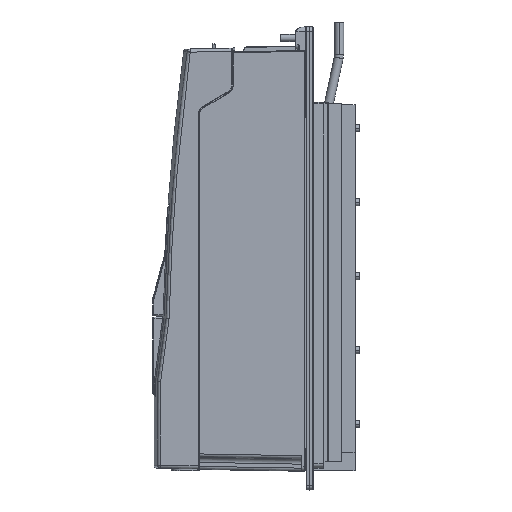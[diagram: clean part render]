
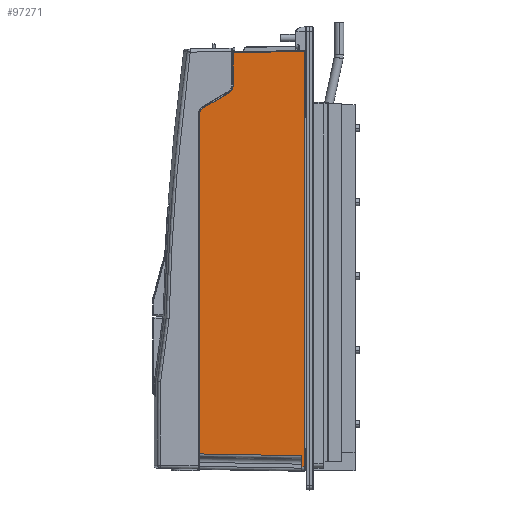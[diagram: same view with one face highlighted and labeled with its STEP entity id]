
A CAD part, left-side view. The second image highlights one B-rep face of the part: STEP entity #97271.
In plain terms, the highlighted planar face has unit normal (-1, 0.018, 0) as drawn and (1, 0.018, 0) by its records, which use the part's own axes.
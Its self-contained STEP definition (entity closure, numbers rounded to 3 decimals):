
#745 = VECTOR ( 'NONE', #23434, 1000. ) ;
#2326 = CARTESIAN_POINT ( 'NONE',  ( 121.154, 119.804, 71.213 ) ) ;
#5045 = CARTESIAN_POINT ( 'NONE',  ( 121.241, 114.904, 62.726 ) ) ;
#6534 = EDGE_CURVE ( 'NONE', #100638, #33276, #87851, .T. ) ;
#6662 = CARTESIAN_POINT ( 'NONE',  ( 123.214, 4.804, 465.943 ) ) ;
#6979 = CARTESIAN_POINT ( 'NONE',  ( 120.989, 129.004, 1.902 ) ) ;
#7083 = DIRECTION ( 'NONE',  ( 0., 0., -1. ) ) ;
#8301 = DIRECTION ( 'NONE',  ( 0.018, -1., 0. ) ) ;
#9463 = EDGE_CURVE ( 'NONE', #48176, #65084, #35364, .T. ) ;
#12512 = EDGE_CURVE ( 'NONE', #69140, #40166, #82367, .T. ) ;
#13223 = B_SPLINE_CURVE_WITH_KNOTS ( 'NONE', 3,
 ( #54897, #31928, #78906, #63213, #62687, #55396 ),
 .UNSPECIFIED., .F., .F.,
 ( 4, 2, 4 ),
 ( 0., 0.001, 0.002 ),
 .UNSPECIFIED. ) ;
#15280 = DIRECTION ( 'NONE',  ( 0., 0., -1. ) ) ;
#15308 = DIRECTION ( 'NONE',  ( -0.018, 1., 0.019 ) ) ;
#15390 = VERTEX_POINT ( 'NONE', #39719 ) ;
#16176 = EDGE_CURVE ( 'NONE', #15390, #69140, #102097, .T. ) ;
#18056 = VECTOR ( 'NONE', #15308, 1000. ) ;
#19308 = CARTESIAN_POINT ( 'NONE',  ( 121.743, 86.904, 46.56 ) ) ;
#23102 = DIRECTION ( 'NONE',  ( -0.016, 0.866, 0.5 ) ) ;
#23434 = DIRECTION ( 'NONE',  ( 0., 0., 1. ) ) ;
#26039 = VERTEX_POINT ( 'NONE', #2326 ) ;
#26502 = DIRECTION ( 'NONE',  ( 0.018, -1., 0.017 ) ) ;
#27168 = CARTESIAN_POINT ( 'NONE',  ( 121.834, 81.804, 41.46 ) ) ;
#28361 = EDGE_CURVE ( 'NONE', #52056, #100638, #43899, .T. ) ;
#29288 = ORIENTED_EDGE ( 'NONE', *, *, #9463, .T. ) ;
#30579 = ORIENTED_EDGE ( 'NONE', *, *, #6534, .F. ) ;
#31928 = CARTESIAN_POINT ( 'NONE',  ( 123.209, 5.102, 453.767 ) ) ;
#31942 =( BOUNDED_CURVE ( )  B_SPLINE_CURVE ( 3, ( #85085, #27168, #90833, #19308 ),
 .UNSPECIFIED., .F., .F. ) 
 B_SPLINE_CURVE_WITH_KNOTS ( ( 4, 4 ),
 ( 0., 1.047 ),
 .UNSPECIFIED. ) 
 CURVE ( )  GEOMETRIC_REPRESENTATION_ITEM ( )  RATIONAL_B_SPLINE_CURVE ( ( 1., 0.911, 0.911, 1. ) ) 
 REPRESENTATION_ITEM ( '' )  );
#32762 = ORIENTED_EDGE ( 'NONE', *, *, #62663, .T. ) ;
#33276 = VERTEX_POINT ( 'NONE', #81272 ) ;
#35364 = LINE ( 'NONE', #90147, #67947 ) ;
#38417 = CARTESIAN_POINT ( 'NONE',  ( 121.154, 119.804, 67.626 ) ) ;
#39285 = VERTEX_POINT ( 'NONE', #55681 ) ;
#39521 = ORIENTED_EDGE ( 'NONE', *, *, #83708, .T. ) ;
#39660 = PLANE ( 'NONE',  #41822 ) ;
#39719 = CARTESIAN_POINT ( 'NONE',  ( 123.214, 4.804, 455.156 ) ) ;
#39904 =( BOUNDED_CURVE ( )  B_SPLINE_CURVE ( 3, ( #5045, #94769, #38417, #78593 ),
 .UNSPECIFIED., .F., .F. ) 
 B_SPLINE_CURVE_WITH_KNOTS ( ( 4, 4 ),
 ( 2.094, 3.142 ),
 .UNSPECIFIED. ) 
 CURVE ( )  GEOMETRIC_REPRESENTATION_ITEM ( )  RATIONAL_B_SPLINE_CURVE ( ( 1., 0.911, 0.911, 1. ) ) 
 REPRESENTATION_ITEM ( '' )  );
#40166 = VERTEX_POINT ( 'NONE', #60434 ) ;
#41822 = AXIS2_PLACEMENT_3D ( 'NONE', #71460, #87647, #8301 ) ;
#43732 = CARTESIAN_POINT ( 'NONE',  ( 123.269, 1.704, -0.542 ) ) ;
#43899 = LINE ( 'NONE', #45444, #53021 ) ;
#45444 = CARTESIAN_POINT ( 'NONE',  ( 121.15, 120., 37.726 ) ) ;
#45826 = EDGE_CURVE ( 'NONE', #65084, #15390, #13223, .T. ) ;
#46019 = VECTOR ( 'NONE', #71792, 1000. ) ;
#46131 = CARTESIAN_POINT ( 'NONE',  ( 121.84, 81.5, 471. ) ) ;
#47168 = EDGE_CURVE ( 'NONE', #40166, #85917, #95295, .T. ) ;
#48176 = VERTEX_POINT ( 'NONE', #50365 ) ;
#49966 = VECTOR ( 'NONE', #7083, 1000. ) ;
#50365 = CARTESIAN_POINT ( 'NONE',  ( 121.154, 119.804, 451.497 ) ) ;
#52056 = VERTEX_POINT ( 'NONE', #66137 ) ;
#53021 = VECTOR ( 'NONE', #84598, 1000. ) ;
#54897 = CARTESIAN_POINT ( 'NONE',  ( 123.207, 5.196, 453.497 ) ) ;
#55396 = CARTESIAN_POINT ( 'NONE',  ( 123.214, 4.804, 455.156 ) ) ;
#55681 = CARTESIAN_POINT ( 'NONE',  ( 121.743, 86.904, 46.56 ) ) ;
#55783 = CARTESIAN_POINT ( 'NONE',  ( 121.154, 119.804, 471. ) ) ;
#55811 = FACE_OUTER_BOUND ( 'NONE', #63372, .T. ) ;
#56107 = VECTOR ( 'NONE', #15280, 1000. ) ;
#57334 = VECTOR ( 'NONE', #59891, 1000. ) ;
#58073 = CARTESIAN_POINT ( 'NONE',  ( 123.207, 5.196, 453.497 ) ) ;
#59891 = DIRECTION ( 'NONE',  ( 0.018, -1., 0.017 ) ) ;
#60434 = CARTESIAN_POINT ( 'NONE',  ( 123.269, 1.704, 465.997 ) ) ;
#61543 = EDGE_CURVE ( 'NONE', #98085, #26039, #39904, .T. ) ;
#62663 = EDGE_CURVE ( 'NONE', #39285, #98085, #70083, .T. ) ;
#62687 = CARTESIAN_POINT ( 'NONE',  ( 123.214, 4.804, 454.869 ) ) ;
#63213 = CARTESIAN_POINT ( 'NONE',  ( 123.213, 4.86, 454.589 ) ) ;
#63372 = EDGE_LOOP ( 'NONE', ( #73841, #39521, #32762, #101941, #81227, #29288, #85057, #84491, #96758, #86326, #83710, #30579 ) ) ;
#63940 = CARTESIAN_POINT ( 'NONE',  ( 123.269, 1.704, 471. ) ) ;
#65084 = VERTEX_POINT ( 'NONE', #58073 ) ;
#66137 = CARTESIAN_POINT ( 'NONE',  ( 121.834, 81.804, 37.726 ) ) ;
#67947 = VECTOR ( 'NONE', #26502, 1000. ) ;
#69140 = VERTEX_POINT ( 'NONE', #6662 ) ;
#70083 = LINE ( 'NONE', #79484, #99643 ) ;
#71460 = CARTESIAN_POINT ( 'NONE',  ( 121.15, 120., 471. ) ) ;
#71792 = DIRECTION ( 'NONE',  ( 0., 0., 1. ) ) ;
#73841 = ORIENTED_EDGE ( 'NONE', *, *, #28361, .F. ) ;
#78593 = CARTESIAN_POINT ( 'NONE',  ( 121.154, 119.804, 71.213 ) ) ;
#78906 = CARTESIAN_POINT ( 'NONE',  ( 123.21, 5.009, 454.037 ) ) ;
#79484 = CARTESIAN_POINT ( 'NONE',  ( 121.241, 114.901, 62.724 ) ) ;
#80641 = CARTESIAN_POINT ( 'NONE',  ( 121.84, 81.5, 37.726 ) ) ;
#81227 = ORIENTED_EDGE ( 'NONE', *, *, #81443, .T. ) ;
#81272 = CARTESIAN_POINT ( 'NONE',  ( 121.84, 81.5, 0.99 ) ) ;
#81443 = EDGE_CURVE ( 'NONE', #26039, #48176, #94945, .T. ) ;
#81652 = CARTESIAN_POINT ( 'NONE',  ( 121.241, 114.904, 62.726 ) ) ;
#82367 = LINE ( 'NONE', #82893, #57334 ) ;
#82893 = CARTESIAN_POINT ( 'NONE',  ( 123.275, 1.413, 466.002 ) ) ;
#83708 = EDGE_CURVE ( 'NONE', #52056, #39285, #31942, .T. ) ;
#83710 = ORIENTED_EDGE ( 'NONE', *, *, #95665, .T. ) ;
#84491 = ORIENTED_EDGE ( 'NONE', *, *, #16176, .T. ) ;
#84598 = DIRECTION ( 'NONE',  ( 0.018, -1., 0. ) ) ;
#85057 = ORIENTED_EDGE ( 'NONE', *, *, #45826, .T. ) ;
#85085 = CARTESIAN_POINT ( 'NONE',  ( 121.834, 81.804, 37.726 ) ) ;
#85835 = LINE ( 'NONE', #6979, #18056 ) ;
#85917 = VERTEX_POINT ( 'NONE', #43732 ) ;
#86326 = ORIENTED_EDGE ( 'NONE', *, *, #47168, .T. ) ;
#87647 = DIRECTION ( 'NONE',  ( -1., -0.018, 0. ) ) ;
#87851 = LINE ( 'NONE', #46131, #56107 ) ;
#90147 = CARTESIAN_POINT ( 'NONE',  ( 123.212, 4.939, 453.502 ) ) ;
#90833 = CARTESIAN_POINT ( 'NONE',  ( 121.801, 83.67, 44.693 ) ) ;
#94769 = CARTESIAN_POINT ( 'NONE',  ( 121.186, 118.01, 64.519 ) ) ;
#94780 = CARTESIAN_POINT ( 'NONE',  ( 123.214, 4.804, 471. ) ) ;
#94945 = LINE ( 'NONE', #55783, #745 ) ;
#95295 = LINE ( 'NONE', #63940, #49966 ) ;
#95665 = EDGE_CURVE ( 'NONE', #85917, #33276, #85835, .T. ) ;
#96758 = ORIENTED_EDGE ( 'NONE', *, *, #12512, .T. ) ;
#97271 = ADVANCED_FACE ( 'NONE', ( #55811 ), #39660, .F. ) ;
#98085 = VERTEX_POINT ( 'NONE', #81652 ) ;
#99643 = VECTOR ( 'NONE', #23102, 1000. ) ;
#100638 = VERTEX_POINT ( 'NONE', #80641 ) ;
#101941 = ORIENTED_EDGE ( 'NONE', *, *, #61543, .T. ) ;
#102097 = LINE ( 'NONE', #94780, #46019 ) ;
